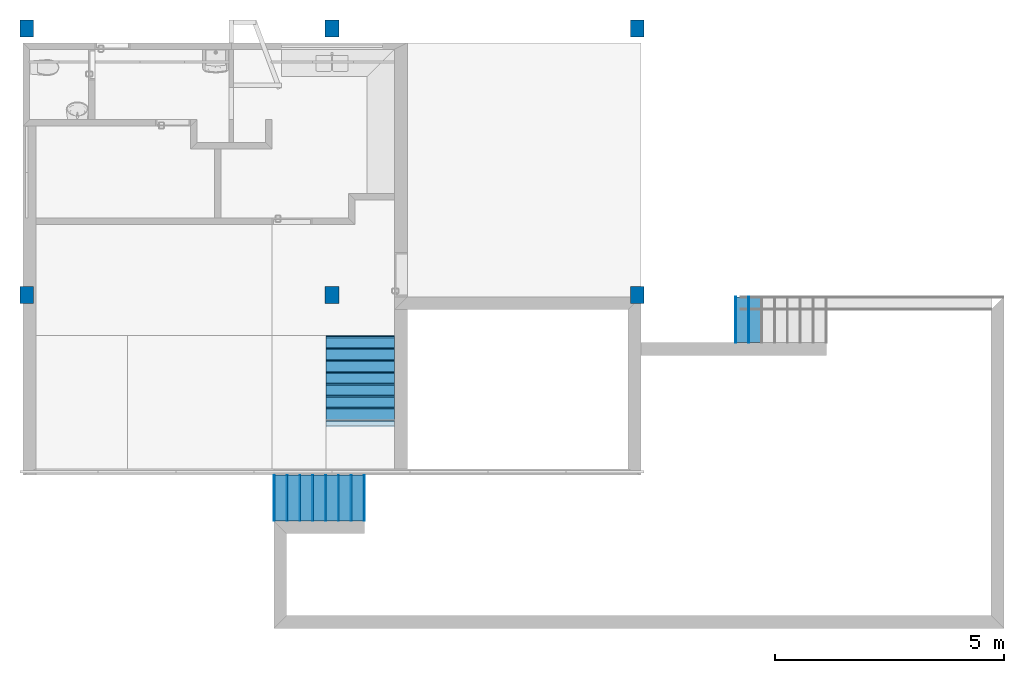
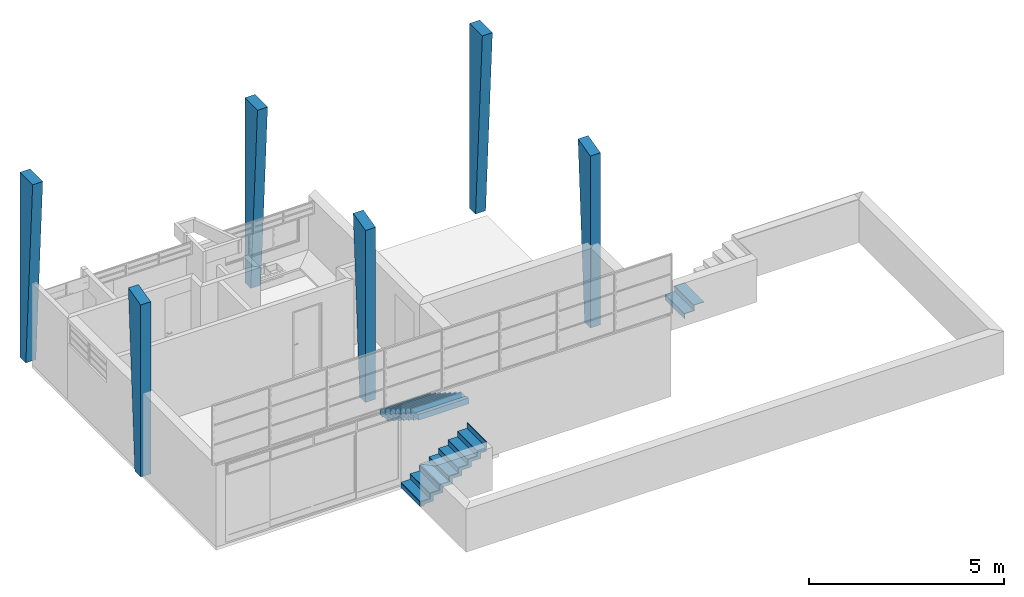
# One storey, part 8 of 16: 35 members, 6 columns, 3 elements without a shape of their own.
"""IFC2X3 building model written with IfcOpenShell, lengths in millimetres."""

from ifc_helpers import new_model, entity, si_unit, converted_unit, derived_unit, money_unit, direction, frame, origin_with_axes, place, context, subcontext, project, spatial, faceted_brep, material, type_object, element, aggregate, save


model = new_model("IFC2X3")

# Units and contexts
model_context = context("Model", 3, precision=0.01, world=origin_with_axes(), true_north=direction((0.293984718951, 0.955810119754)))
body_context = subcontext(model_context, "Body", "Model", "MODEL_VIEW")
ifc_project = project(units=[si_unit("LENGTHUNIT", "METRE", prefix="MILLI"), si_unit("AREAUNIT", "SQUARE_METRE"), si_unit("VOLUMEUNIT", "CUBIC_METRE"), converted_unit("PLANEANGLEUNIT", "DEGREE", entity("IfcPlaneAngleMeasure", 0.0174532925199), si_unit("PLANEANGLEUNIT", "RADIAN"), dimensions=[0, 0, 0, 0, 0, 0, 0]), si_unit("SOLIDANGLEUNIT", "STERADIAN"), money_unit("USD"), converted_unit("TIMEUNIT", "Year", entity("IfcTimeMeasure", 31556926.0), si_unit("TIMEUNIT", "SECOND"), dimensions=[0, 0, 1, 0, 0, 0, 0]), si_unit("MASSUNIT", "GRAM", prefix="KILO"), si_unit("THERMODYNAMICTEMPERATUREUNIT", "DEGREE_CELSIUS"), si_unit("LUMINOUSINTENSITYUNIT", "LUMEN"), si_unit("ENERGYUNIT", "JOULE", prefix="MEGA"), derived_unit("THERMALCONDUCTANCEUNIT", [(si_unit("POWERUNIT", "WATT"), 1), (si_unit("LENGTHUNIT", "METRE"), -1), (si_unit("THERMODYNAMICTEMPERATUREUNIT", "KELVIN"), -1)]), derived_unit("SPECIFICHEATCAPACITYUNIT", [(si_unit("ENERGYUNIT", "JOULE"), 1), (si_unit("MASSUNIT", "GRAM", prefix="KILO"), -1), (si_unit("THERMODYNAMICTEMPERATUREUNIT", "KELVIN"), -1)]), derived_unit("MASSDENSITYUNIT", [(si_unit("MASSUNIT", "GRAM", prefix="KILO"), 1), (si_unit("VOLUMEUNIT", "CUBIC_METRE"), -1)])], contexts=[model_context])

# Site, building, storey
site_placement = place(None, origin_with_axes())
site = spatial("IfcSite", under=ifc_project, at=site_placement, Name="Local", CompositionType="ELEMENT")
building_placement = place(site_placement, origin_with_axes())
building = spatial("IfcBuilding", under=site, at=building_placement, Name="Construção", CompositionType="ELEMENT")
storey_placement = place(building_placement, origin_with_axes())
storey = spatial("IfcBuildingStorey", under=building, at=storey_placement, Name="Pavimento Térreo", CompositionType="ELEMENT", Elevation=0.0)

# Columns
ifc_material_1 = material(Name="Concreto Armado - Estrutural")
column_type = type_object("IfcColumnType", Name="Concreto Armado - Estrutural 650 x 300", PredefinedType="NOTDEFINED")
for number, where, z_axis, x_axis, name in (
    (1, (20499.6450727, 13150.6321979, 0.0), (0.0, 0.0, 1.0), (1.0, 0.0, 0.0), "Pilar-01"),
    (2, (13829.6450727, 13150.6321979, 0.0), (0.0, 0.0, 1.0), (1.0, 0.0, 0.0), "Pilar-02"),
    (3, (7159.64507267, 13150.6321979, 0.0), (0.0, 0.0, 1.0), (1.0, 0.0, 0.0), "Pilar-03"),
):
    element("IfcColumn", number, at=place(storey_placement, frame(where, z_axis=z_axis, x_axis=x_axis)), inside=storey, type_object=column_type, material=ifc_material_1, Name=name, context=body_context, shape_type="Brep", body=[
        faceted_brep([(150.0, 150.0, 0.0), (150.0, 150.0, 5800.0), (150.0, -500.0, 5800.0), (150.0, -150.0, 0.0), (-150.0, 150.0, 0.0), (-150.0, 150.0, 5800.0), (-150.0, -500.0, 5800.0), (-150.0, -150.0, 0.0)], [[[0, 1, 2, 3]], [[4, 5, 1, 0]], [[6, 2, 1, 5]], [[3, 2, 6, 7]], [[7, 4, 0, 3]], [[7, 6, 5, 4]]]),
    ])
column_1_placement = place(storey_placement, frame((13829.6450727, 7250.63219788, 0.0), z_axis=(0.0, 0.0, 1.0), x_axis=(1.0, 0.0, 0.0)))
element("IfcColumn", 4, at=column_1_placement, inside=storey, type_object=column_type, material=ifc_material_1, Name="Pilar-05", context=body_context, shape_type="Brep", body=[
    faceted_brep([(-150.0, 150.0, 0.0), (-150.0, 485.067846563, 5552.5528859), (150.0, 485.067846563, 5552.5528859), (150.0, 150.0, 0.0), (-150.0, -150.0, 0.0), (-150.0, -150.0, 5394.21268805), (150.0, -150.0, 5394.21268805), (150.0, -150.0, 0.0)], [[[0, 1, 2, 3]], [[4, 5, 1, 0]], [[6, 2, 1, 5]], [[3, 2, 6, 7]], [[4, 0, 3, 7]], [[7, 6, 5, 4]]]),
])
column_2_placement = place(storey_placement, frame((20499.6450727, 7250.63219788, 0.0), z_axis=(0.0, 0.0, 1.0), x_axis=(1.0, 0.0, 0.0)))
element("IfcColumn", 5, at=column_2_placement, inside=storey, type_object=column_type, material=ifc_material_1, Name="Pilar-06", context=body_context, shape_type="Brep", body=[
    faceted_brep([(-150.0, 150.0, 0.0), (-150.0, 485.067846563, 5552.5528859), (149.999999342, 485.06784656, 5552.55288591), (150.0, 150.0, 0.0), (-150.0, -150.0, 0.0), (-150.0, -150.0, 5394.21268805), (149.999999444, -150.000000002, 5394.21268805), (150.0, -150.0, 0.0)], [[[0, 1, 2, 3]], [[4, 5, 1, 0]], [[6, 2, 1, 5]], [[3, 2, 6, 7]], [[4, 0, 3, 7]], [[7, 6, 5, 4]]]),
])
column_3_placement = place(storey_placement, frame((7159.64507267, 7250.63219788, 0.0), z_axis=(0.0, 0.0, 1.0), x_axis=(1.0, 0.0, 0.0)))
element("IfcColumn", 6, at=column_3_placement, inside=storey, type_object=column_type, material=ifc_material_1, Name="Pilar-04", context=body_context, shape_type="Brep", body=[
    faceted_brep([(-150.0, 150.0, 0.0), (-150.000001, 485.06784656, 5552.55288591), (150.0, 485.067846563, 5552.5528859), (150.0, 150.0, 0.0), (-150.0, -150.0, 0.0), (-150.000000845, -150.000000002, 5394.21268805), (150.0, -150.0, 5394.21268805), (150.0, -150.0, 0.0)], [[[0, 1, 2, 3]], [[4, 5, 1, 0]], [[6, 2, 1, 5]], [[3, 2, 6, 7]], [[4, 0, 3, 7]], [[7, 6, 5, 4]]]),
])

# Stair, members
stair_1_placement = place(storey_placement, frame((15199.6450727, 6400.63219788, 50.0), z_axis=(0.0, 0.0, 1.0), x_axis=(1.0, 0.0, 0.0)))
stair_1 = element("IfcStair", 7, at=stair_1_placement, inside=storey, Name="Escada", ShapeType="NOTDEFINED")
member_type = type_object("IfcMemberType", Name="IfcMember", PredefinedType="NOTDEFINED")
member_1_placement = place(stair_1_placement, origin_with_axes())
member_1 = element("IfcMember", 8, at=member_1_placement, type_object=member_type, material=ifc_material_1, Name="Lance - 025", context=body_context, shape_type="Brep", body=[
    faceted_brep([(-1500.0, -1580.47620557, 1117.5), (-1500.0, -1872.0630058, 1117.5), (0.0, -1872.0630058, 1117.5), (0.0, -1580.47620557, 1117.5), (-1500.0, -1859.91423797, 1180.0), (-1500.0, -1612.0630058, 955.0), (-1500.0, -1320.47620557, 955.0), (-1500.0, -1352.0630058, 792.5), (-1500.0, -1060.47620557, 792.5), (-1500.0, -1092.0630058, 630.0), (-1500.0, -800.476205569, 630.0), (-1500.0, -832.063005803, 467.5), (-1500.0, -540.476205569, 467.5), (-1500.0, -572.063005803, 305.0), (-1500.0, -280.476205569, 305.0), (-1500.0, -312.063005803, 142.5), (-1500.0, -20.4762055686, 142.5), (-1500.0, -48.1753996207, 0.0), (-1500.0, -150.047069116, 0.0), (-1500.0, -141.785905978, 42.5), (-1500.0, -433.372706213, 42.5), (-1500.0, -401.785905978, 205.0), (-1500.0, -693.372706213, 205.0), (-1500.0, -661.785905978, 367.5), (-1500.0, -953.372706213, 367.5), (-1500.0, -921.785905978, 530.0), (-1500.0, -1213.37270621, 530.0), (-1500.0, -1181.78590598, 692.5), (-1500.0, -1473.37270621, 692.5), (-1500.0, -1441.78590598, 855.0), (-1500.0, -1733.37270621, 855.0), (-1500.0, -1701.78590598, 1017.5), (-1500.0, -1993.37270338, 1017.5), (-1500.0, -1961.78590701, 1180.0), (0.0, -1859.91423797, 1180.0), (0.0, -1961.78590701, 1180.0), (0.0, -1993.37270338, 1017.5), (0.0, -1701.78590598, 1017.5), (0.0, -1733.37270621, 855.0), (0.0, -1441.78590598, 855.0), (0.0, -1473.37270621, 692.5), (0.0, -1181.78590598, 692.5), (0.0, -1213.37270621, 530.0), (0.0, -921.785905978, 530.0), (0.0, -953.372706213, 367.5), (0.0, -661.785905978, 367.5), (0.0, -693.372706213, 205.0), (0.0, -401.785905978, 205.0), (0.0, -433.372706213, 42.5), (0.0, -141.785905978, 42.5), (0.0, -150.047069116, 0.0), (0.0, -48.1753996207, 0.0), (0.0, -20.4762055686, 142.5), (0.0, -312.063005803, 142.5), (0.0, -280.476205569, 305.0), (0.0, -572.063005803, 305.0), (0.0, -540.476205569, 467.5), (0.0, -832.063005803, 467.5), (0.0, -800.476205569, 630.0), (0.0, -1092.0630058, 630.0), (0.0, -1060.47620557, 792.5), (0.0, -1352.0630058, 792.5), (0.0, -1320.47620557, 955.0), (0.0, -1612.0630058, 955.0)], [[[0, 1, 2, 3]], [[4, 1, 0, 5, 6, 7, 8, 9, 10, 11, 12, 13, 14, 15, 16, 17, 18, 19, 20, 21, 22, 23, 24, 25, 26, 27, 28, 29, 30, 31, 32, 33]], [[34, 2, 1, 4]], [[35, 36, 37, 38, 39, 40, 41, 42, 43, 44, 45, 46, 47, 48, 49, 50, 51, 52, 53, 54, 55, 56, 57, 58, 59, 60, 61, 62, 63, 3, 2, 34]], [[5, 0, 3, 63]], [[63, 62, 6, 5]], [[7, 6, 62, 61]], [[61, 60, 8, 7]], [[9, 8, 60, 59]], [[59, 58, 10, 9]], [[11, 10, 58, 57]], [[57, 56, 12, 11]], [[13, 12, 56, 55]], [[55, 54, 14, 13]], [[15, 14, 54, 53]], [[53, 52, 16, 15]], [[51, 17, 16, 52]], [[50, 18, 17, 51]], [[18, 50, 49, 19]], [[48, 20, 19, 49]], [[20, 48, 47, 21]], [[47, 46, 22, 21]], [[22, 46, 45, 23]], [[45, 44, 24, 23]], [[24, 44, 43, 25]], [[43, 42, 26, 25]], [[26, 42, 41, 27]], [[41, 40, 28, 27]], [[28, 40, 39, 29]], [[39, 38, 30, 29]], [[30, 38, 37, 31]], [[36, 32, 31, 37]], [[32, 36, 35, 33]], [[33, 35, 34, 4]]]),
])
ifc_material_2 = material(Name="Concreto - Contra Piso")
member_2_placement = place(stair_1_placement, frame((-750.0, 0.0, 142.5), z_axis=(0.0, 0.0, 1.0), x_axis=(-1.0, 0.0, 0.0)))
member_2 = element("IfcMember", 9, at=member_2_placement, type_object=member_type, material=ifc_material_2, Name="RISER-215", context=body_context, shape_type="Brep", body=[
    faceted_brep([(750.0, 0.0, 0.0), (750.0, 20.3743338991, 0.0), (-750.0, 20.3743338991, 0.0), (-750.0, 0.0, 0.0), (750.0, 27.6991940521, -142.5), (750.0, 48.0735279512, -142.5), (-750.0, 48.0735279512, -142.5), (-750.0, 27.6991940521, -142.5)], [[[0, 1, 2, 3]], [[0, 4, 5, 1]], [[1, 5, 6, 2]], [[3, 2, 6, 7]], [[4, 0, 3, 7]], [[5, 4, 7, 6]]]),
])
member_3_placement = place(stair_1_placement, frame((-750.0, -260.0, 305.0), z_axis=(0.0, 0.0, 1.0), x_axis=(-1.0, 0.0, 0.0)))
member_3 = element("IfcMember", 10, at=member_3_placement, type_object=member_type, material=ifc_material_2, Name="RISER-216", context=body_context, shape_type="Brep", body=[
    faceted_brep([(750.0, 0.0, 0.0), (750.0, 20.3743338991, 0.0), (-750.0, 20.3743338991, 0.0), (-750.0, 0.0, 0.0), (750.0, 27.6991940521, -142.5), (750.0, 48.0735279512, -142.5), (-750.0, 48.0735279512, -142.5), (-750.0, 27.6991940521, -142.5)], [[[0, 1, 2, 3]], [[0, 4, 5, 1]], [[1, 5, 6, 2]], [[3, 2, 6, 7]], [[4, 0, 3, 7]], [[5, 4, 7, 6]]]),
])
member_4_placement = place(stair_1_placement, frame((-750.0, -520.0, 467.5), z_axis=(0.0, 0.0, 1.0), x_axis=(-1.0, 0.0, 0.0)))
member_4 = element("IfcMember", 11, at=member_4_placement, type_object=member_type, material=ifc_material_2, Name="RISER-217", context=body_context, shape_type="Brep", body=[
    faceted_brep([(750.0, 0.0, 0.0), (750.0, 20.3743338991, 0.0), (-750.0, 20.3743338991, 0.0), (-750.0, 0.0, 0.0), (750.0, 27.6991940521, -142.5), (750.0, 48.0735279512, -142.5), (-750.0, 48.0735279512, -142.5), (-750.0, 27.6991940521, -142.5)], [[[0, 1, 2, 3]], [[0, 4, 5, 1]], [[1, 5, 6, 2]], [[3, 2, 6, 7]], [[4, 0, 3, 7]], [[5, 4, 7, 6]]]),
])
member_5_placement = place(stair_1_placement, frame((-750.0, -780.0, 630.0), z_axis=(0.0, 0.0, 1.0), x_axis=(-1.0, 0.0, 0.0)))
member_5 = element("IfcMember", 12, at=member_5_placement, type_object=member_type, material=ifc_material_2, Name="RISER-218", context=body_context, shape_type="Brep", body=[
    faceted_brep([(750.0, 0.0, 0.0), (750.0, 20.3743338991, 0.0), (-750.0, 20.3743338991, 0.0), (-750.0, 0.0, 0.0), (750.0, 27.6991940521, -142.5), (750.0, 48.0735279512, -142.5), (-750.0, 48.0735279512, -142.5), (-750.0, 27.6991940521, -142.5)], [[[0, 1, 2, 3]], [[0, 4, 5, 1]], [[1, 5, 6, 2]], [[3, 2, 6, 7]], [[4, 0, 3, 7]], [[5, 4, 7, 6]]]),
])
member_6_placement = place(stair_1_placement, frame((-750.0, -1040.0, 792.5), z_axis=(0.0, 0.0, 1.0), x_axis=(-1.0, 0.0, 0.0)))
member_6 = element("IfcMember", 13, at=member_6_placement, type_object=member_type, material=ifc_material_2, Name="RISER-219", context=body_context, shape_type="Brep", body=[
    faceted_brep([(750.0, 0.0, 0.0), (750.0, 20.3743338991, 0.0), (-750.0, 20.3743338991, 0.0), (-750.0, 0.0, 0.0), (750.0, 27.6991940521, -142.5), (750.0, 48.0735279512, -142.5), (-750.0, 48.0735279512, -142.5), (-750.0, 27.6991940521, -142.5)], [[[0, 1, 2, 3]], [[0, 4, 5, 1]], [[1, 5, 6, 2]], [[3, 2, 6, 7]], [[4, 0, 3, 7]], [[5, 4, 7, 6]]]),
])
member_7_placement = place(stair_1_placement, frame((-750.0, -1300.0, 955.0), z_axis=(0.0, 0.0, 1.0), x_axis=(-1.0, 0.0, 0.0)))
member_7 = element("IfcMember", 14, at=member_7_placement, type_object=member_type, material=ifc_material_2, Name="RISER-220", context=body_context, shape_type="Brep", body=[
    faceted_brep([(750.0, 0.0, 0.0), (750.0, 20.3743338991, 0.0), (-750.0, 20.3743338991, 0.0), (-750.0, 0.0, 0.0), (750.0, 27.6991940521, -142.5), (750.0, 48.0735279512, -142.5), (-750.0, 48.0735279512, -142.5), (-750.0, 27.6991940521, -142.5)], [[[0, 1, 2, 3]], [[0, 4, 5, 1]], [[1, 5, 6, 2]], [[3, 2, 6, 7]], [[4, 0, 3, 7]], [[5, 4, 7, 6]]]),
])
member_8_placement = place(stair_1_placement, frame((-750.0, -1560.0, 1117.5), z_axis=(0.0, 0.0, 1.0), x_axis=(-1.0, 0.0, 0.0)))
member_8 = element("IfcMember", 15, at=member_8_placement, type_object=member_type, material=ifc_material_2, Name="RISER-221", context=body_context, shape_type="Brep", body=[
    faceted_brep([(750.0, 0.0, 0.0), (750.0, 20.3743338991, 0.0), (-750.0, 20.3743338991, 0.0), (-750.0, 0.0, 0.0), (750.0, 27.6991940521, -142.5), (750.0, 48.0735279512, -142.5), (-750.0, 48.0735279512, -142.5), (-750.0, 27.6991940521, -142.5)], [[[0, 1, 2, 3]], [[0, 4, 5, 1]], [[1, 5, 6, 2]], [[3, 2, 6, 7]], [[4, 0, 3, 7]], [[5, 4, 7, 6]]]),
])
member_9_placement = place(stair_1_placement, frame((-750.0, 0.0, 162.5), z_axis=(0.0, 0.0, 1.0), x_axis=(-1.0, 0.0, 0.0)))
member_9 = element("IfcMember", 16, at=member_9_placement, type_object=member_type, material=ifc_material_2, Name="Piso Esc. - 184", context=body_context, shape_type="Brep", body=[
    faceted_brep([(-750.0, 311.961134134, -20.0), (0.0, 311.961134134, -20.0), (750.0, 311.961134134, -20.0), (750.0, 0.0, -20.0), (-750.0, 0.0, -20.0), (-750.0, 308.073527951, 0.0), (0.0, 308.073527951, 0.0), (750.0, 308.073527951, 0.0), (750.0, 0.0, 0.0), (-750.0, 0.0, 0.0)], [[[0, 1, 2, 3, 4]], [[1, 0, 5, 6, 7, 2]], [[7, 8, 3, 2]], [[8, 9, 4, 3]], [[5, 0, 4, 9]], [[6, 5, 9, 8, 7]]]),
])
member_10_placement = place(stair_1_placement, frame((-750.0, -260.0, 325.0), z_axis=(0.0, 0.0, 1.0), x_axis=(-1.0, 0.0, 0.0)))
member_10 = element("IfcMember", 17, at=member_10_placement, type_object=member_type, material=ifc_material_2, Name="Piso Esc. - 185", context=body_context, shape_type="Brep", body=[
    faceted_brep([(-750.0, 311.961134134, -20.0), (0.0, 311.961134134, -20.0), (750.0, 311.961134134, -20.0), (750.0, 0.0, -20.0), (-750.0, 0.0, -20.0), (-750.0, 308.073527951, 0.0), (0.0, 308.073527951, 0.0), (750.0, 308.073527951, 0.0), (750.0, 0.0, 0.0), (-750.0, 0.0, 0.0)], [[[0, 1, 2, 3, 4]], [[1, 0, 5, 6, 7, 2]], [[7, 8, 3, 2]], [[8, 9, 4, 3]], [[5, 0, 4, 9]], [[6, 5, 9, 8, 7]]]),
])
member_11_placement = place(stair_1_placement, frame((-750.0, -520.0, 487.5), z_axis=(0.0, 0.0, 1.0), x_axis=(-1.0, 0.0, 0.0)))
member_11 = element("IfcMember", 18, at=member_11_placement, type_object=member_type, material=ifc_material_2, Name="Piso Esc. - 186", context=body_context, shape_type="Brep", body=[
    faceted_brep([(-750.0, 311.961134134, -20.0), (0.0, 311.961134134, -20.0), (750.0, 311.961134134, -20.0), (750.0, 0.0, -20.0), (-750.0, 0.0, -20.0), (-750.0, 308.073527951, 0.0), (0.0, 308.073527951, 0.0), (750.0, 308.073527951, 0.0), (750.0, 0.0, 0.0), (-750.0, 0.0, 0.0)], [[[0, 1, 2, 3, 4]], [[1, 0, 5, 6, 7, 2]], [[7, 8, 3, 2]], [[8, 9, 4, 3]], [[5, 0, 4, 9]], [[6, 5, 9, 8, 7]]]),
])
member_12_placement = place(stair_1_placement, frame((-750.0, -780.0, 650.0), z_axis=(0.0, 0.0, 1.0), x_axis=(-1.0, 0.0, 0.0)))
member_12 = element("IfcMember", 19, at=member_12_placement, type_object=member_type, material=ifc_material_2, Name="Piso Esc. - 187", context=body_context, shape_type="Brep", body=[
    faceted_brep([(-750.0, 311.961134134, -20.0), (0.0, 311.961134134, -20.0), (750.0, 311.961134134, -20.0), (750.0, 0.0, -20.0), (-750.0, 0.0, -20.0), (-750.0, 308.073527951, 0.0), (0.0, 308.073527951, 0.0), (750.0, 308.073527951, 0.0), (750.0, 0.0, 0.0), (-750.0, 0.0, 0.0)], [[[0, 1, 2, 3, 4]], [[1, 0, 5, 6, 7, 2]], [[7, 8, 3, 2]], [[8, 9, 4, 3]], [[5, 0, 4, 9]], [[6, 5, 9, 8, 7]]]),
])
member_13_placement = place(stair_1_placement, frame((-750.0, -1040.0, 812.5), z_axis=(0.0, 0.0, 1.0), x_axis=(-1.0, 0.0, 0.0)))
member_13 = element("IfcMember", 20, at=member_13_placement, type_object=member_type, material=ifc_material_2, Name="Piso Esc. - 188", context=body_context, shape_type="Brep", body=[
    faceted_brep([(-750.0, 311.961134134, -20.0), (0.0, 311.961134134, -20.0), (750.0, 311.961134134, -20.0), (750.0, 0.0, -20.0), (-750.0, 0.0, -20.0), (-750.0, 308.073527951, 0.0), (0.0, 308.073527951, 0.0), (750.0, 308.073527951, 0.0), (750.0, 0.0, 0.0), (-750.0, 0.0, 0.0)], [[[0, 1, 2, 3, 4]], [[1, 0, 5, 6, 7, 2]], [[7, 8, 3, 2]], [[8, 9, 4, 3]], [[5, 0, 4, 9]], [[6, 5, 9, 8, 7]]]),
])
member_14_placement = place(stair_1_placement, frame((-750.0, -1300.0, 975.0), z_axis=(0.0, 0.0, 1.0), x_axis=(-1.0, 0.0, 0.0)))
member_14 = element("IfcMember", 21, at=member_14_placement, type_object=member_type, material=ifc_material_2, Name="Piso Esc. - 189", context=body_context, shape_type="Brep", body=[
    faceted_brep([(-750.0, 311.961134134, -20.0), (0.0, 311.961134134, -20.0), (750.0, 311.961134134, -20.0), (750.0, 0.0, -20.0), (-750.0, 0.0, -20.0), (-750.0, 308.073527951, 0.0), (0.0, 308.073527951, 0.0), (750.0, 308.073527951, 0.0), (750.0, 0.0, 0.0), (-750.0, 0.0, 0.0)], [[[0, 1, 2, 3, 4]], [[1, 0, 5, 6, 7, 2]], [[7, 8, 3, 2]], [[8, 9, 4, 3]], [[5, 0, 4, 9]], [[6, 5, 9, 8, 7]]]),
])
member_15_placement = place(stair_1_placement, frame((-750.0, -1560.0, 1137.5), z_axis=(0.0, 0.0, 1.0), x_axis=(-1.0, 0.0, 0.0)))
member_15 = element("IfcMember", 22, at=member_15_placement, type_object=member_type, material=ifc_material_2, Name="Piso Esc. - 190", context=body_context, shape_type="Brep", body=[
    faceted_brep([(-750.0, 311.961134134, -20.0), (0.0, 311.961134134, -20.0), (750.0, 311.961134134, -20.0), (750.0, 260.0, -20.0), (750.0, 0.0, -20.0), (-750.0, 0.0, -20.0), (-750.0, 260.0, -20.0), (-750.0, 308.073527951, 0.0), (0.0, 308.073527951, 0.0), (750.0, 308.073527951, 0.0), (750.0, 260.0, 0.0), (750.0, 0.0, 0.0), (-750.0, 0.0, 0.0), (-750.0, 260.0, 0.0)], [[[0, 1, 2, 3, 4, 5, 6]], [[1, 0, 7, 8, 9, 2]], [[9, 10, 3, 2]], [[10, 11, 4, 3]], [[11, 12, 5, 4]], [[12, 13, 6, 5]], [[7, 0, 6, 13]], [[8, 7, 13, 12, 11, 10, 9]]]),
])
aggregate(stair_1, [member_1, member_2, member_3, member_4, member_5, member_6, member_7, member_8, member_9, member_10, member_11, member_12, member_13, member_14, member_15])

stair_2_placement = place(storey_placement, frame((12559.6450727, 3350.63219788, 0.0), z_axis=(0.0, 0.0, 1.0), x_axis=(1.0, 0.0, 0.0)))
stair_2 = element("IfcStair", 23, at=stair_2_placement, inside=storey, Name="Escada", ShapeType="NOTDEFINED")
member_16_placement = place(stair_2_placement, origin_with_axes())
member_16 = element("IfcMember", 24, at=member_16_placement, type_object=member_type, material=ifc_material_1, Name="Lance - 022", context=body_context, shape_type="Brep", body=[
    faceted_brep([(1962.91114828, -1000.0, 1161.25), (1962.91114828, 0.0, 1161.25), (1702.5952709, 0.0, 1161.25), (1702.5952709, -1000.0, 1161.25), (1962.91114828, 0.0, 1061.25), (1962.91114828, -1000.0, 1061.25), (1802.5952709, 0.0, 1061.25), (1802.5952709, 0.0, 892.5), (1522.17939242, 0.0, 892.5), (1522.17939242, 0.0, 723.75), (1241.76351393, 0.0, 723.75), (1241.76351393, 0.0, 555.0), (961.34763545, 0.0, 555.0), (961.34763545, 0.0, 386.25), (680.931756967, 0.0, 386.25), (680.931756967, 0.0, 217.5), (400.515878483, 0.0, 217.5), (400.515878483, 0.0, 48.75), (120.1, 0.0, 48.75), (120.1, 0.0, 0.0), (20.1, 0.0, 0.0), (20.1, 0.0, 148.75), (300.515878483, 0.0, 148.75), (300.515878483, 0.0, 317.5), (580.931756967, 0.0, 317.5), (580.931756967, 0.0, 486.25), (861.34763545, 0.0, 486.25), (861.34763545, 0.0, 655.0), (1141.76351393, 0.0, 655.0), (1141.76351393, 0.0, 823.75), (1422.17939242, 0.0, 823.75), (1422.17939242, 0.0, 992.5), (1702.5952709, 0.0, 992.5), (1702.5952709, -1000.0, 992.5), (1422.17939242, -1000.0, 992.5), (1422.17939242, -1000.0, 823.75), (1141.76351393, -1000.0, 823.75), (1141.76351393, -1000.0, 655.0), (861.34763545, -1000.0, 655.0), (861.34763545, -1000.0, 486.25), (580.931756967, -1000.0, 486.25), (580.931756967, -1000.0, 317.5), (300.515878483, -1000.0, 317.5), (300.515878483, -1000.0, 148.75), (20.1, -1000.0, 148.75), (20.1, -1000.0, 0.0), (120.1, -1000.0, 0.0), (120.1, -1000.0, 48.75), (400.515878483, -1000.0, 48.75), (400.515878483, -1000.0, 217.5), (680.931756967, -1000.0, 217.5), (680.931756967, -1000.0, 386.25), (961.34763545, -1000.0, 386.25), (961.34763545, -1000.0, 555.0), (1241.76351393, -1000.0, 555.0), (1241.76351393, -1000.0, 723.75), (1522.17939242, -1000.0, 723.75), (1522.17939242, -1000.0, 892.5), (1802.5952709, -1000.0, 892.5), (1802.5952709, -1000.0, 1061.25)], [[[0, 1, 2, 3]], [[4, 1, 0, 5]], [[1, 4, 6, 7, 8, 9, 10, 11, 12, 13, 14, 15, 16, 17, 18, 19, 20, 21, 22, 23, 24, 25, 26, 27, 28, 29, 30, 31, 32, 2]], [[3, 2, 32, 33]], [[5, 0, 3, 33, 34, 35, 36, 37, 38, 39, 40, 41, 42, 43, 44, 45, 46, 47, 48, 49, 50, 51, 52, 53, 54, 55, 56, 57, 58, 59]], [[4, 5, 59, 6]], [[6, 59, 58, 7]], [[7, 58, 57, 8]], [[8, 57, 56, 9]], [[9, 56, 55, 10]], [[10, 55, 54, 11]], [[11, 54, 53, 12]], [[12, 53, 52, 13]], [[13, 52, 51, 14]], [[14, 51, 50, 15]], [[15, 50, 49, 16]], [[49, 48, 17, 16]], [[48, 47, 18, 17]], [[19, 18, 47, 46]], [[46, 45, 20, 19]], [[20, 45, 44, 21]], [[21, 44, 43, 22]], [[42, 23, 22, 43]], [[23, 42, 41, 24]], [[40, 25, 24, 41]], [[25, 40, 39, 26]], [[38, 27, 26, 39]], [[27, 38, 37, 28]], [[36, 29, 28, 37]], [[29, 36, 35, 30]], [[34, 31, 30, 35]], [[31, 34, 33, 32]]]),
])
member_17_placement = place(stair_2_placement, frame((0.0, -500.0, 148.75), z_axis=(0.0, 0.0, 1.0), x_axis=(0.0, -1.0, 0.0)))
member_17 = element("IfcMember", 25, at=member_17_placement, type_object=member_type, material=ifc_material_2, Name="RISER-187", context=body_context, shape_type="Brep", body=[
    faceted_brep([(500.0, 0.0, 0.0), (500.0, 20.0, 0.0), (-500.0, 20.0, 0.0), (-500.0, 0.0, 0.0), (500.0, 0.0, -148.75), (500.0, 20.0, -148.75), (-500.0, 20.0, -148.75), (-500.0, 0.0, -148.75)], [[[0, 1, 2, 3]], [[0, 4, 5, 1]], [[1, 5, 6, 2]], [[3, 2, 6, 7]], [[4, 0, 3, 7]], [[5, 4, 7, 6]]]),
])
member_18_placement = place(stair_2_placement, frame((280.415878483, -500.0, 317.5), z_axis=(0.0, 0.0, 1.0), x_axis=(0.0, -1.0, 0.0)))
member_18 = element("IfcMember", 26, at=member_18_placement, type_object=member_type, material=ifc_material_2, Name="RISER-188", context=body_context, shape_type="Brep", body=[
    faceted_brep([(500.0, 0.0, 0.0), (500.0, 20.0, 0.0), (-500.0, 20.0, 0.0), (-500.0, 0.0, 0.0), (500.0, 0.0, -148.75), (500.0, 20.0, -148.75), (-500.0, 20.0, -148.75), (-500.0, 0.0, -148.75)], [[[0, 1, 2, 3]], [[0, 4, 5, 1]], [[1, 5, 6, 2]], [[3, 2, 6, 7]], [[4, 0, 3, 7]], [[5, 4, 7, 6]]]),
])
member_19_placement = place(stair_2_placement, frame((560.831756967, -500.0, 486.25), z_axis=(0.0, 0.0, 1.0), x_axis=(0.0, -1.0, 0.0)))
member_19 = element("IfcMember", 27, at=member_19_placement, type_object=member_type, material=ifc_material_2, Name="RISER-189", context=body_context, shape_type="Brep", body=[
    faceted_brep([(500.0, 0.0, 0.0), (500.0, 20.0, 0.0), (-500.0, 20.0, 0.0), (-500.0, 0.0, 0.0), (500.0, 0.0, -148.75), (500.0, 20.0, -148.75), (-500.0, 20.0, -148.75), (-500.0, 0.0, -148.75)], [[[0, 1, 2, 3]], [[0, 4, 5, 1]], [[1, 5, 6, 2]], [[3, 2, 6, 7]], [[4, 0, 3, 7]], [[5, 4, 7, 6]]]),
])
member_20_placement = place(stair_2_placement, frame((841.24763545, -500.0, 655.0), z_axis=(0.0, 0.0, 1.0), x_axis=(0.0, -1.0, 0.0)))
member_20 = element("IfcMember", 28, at=member_20_placement, type_object=member_type, material=ifc_material_2, Name="RISER-190", context=body_context, shape_type="Brep", body=[
    faceted_brep([(500.0, 0.0, 0.0), (500.0, 20.0, 0.0), (-500.0, 20.0, 0.0), (-500.0, 0.0, 0.0), (500.0, 0.0, -148.75), (500.0, 20.0, -148.75), (-500.0, 20.0, -148.75), (-500.0, 0.0, -148.75)], [[[0, 1, 2, 3]], [[0, 4, 5, 1]], [[1, 5, 6, 2]], [[3, 2, 6, 7]], [[4, 0, 3, 7]], [[5, 4, 7, 6]]]),
])
member_21_placement = place(stair_2_placement, frame((1121.66351393, -500.0, 823.75), z_axis=(0.0, 0.0, 1.0), x_axis=(0.0, -1.0, 0.0)))
member_21 = element("IfcMember", 29, at=member_21_placement, type_object=member_type, material=ifc_material_2, Name="RISER-191", context=body_context, shape_type="Brep", body=[
    faceted_brep([(500.0, 0.0, 0.0), (500.0, 20.0, 0.0), (-500.0, 20.0, 0.0), (-500.0, 0.0, 0.0), (500.0, 0.0, -148.75), (500.0, 20.0, -148.75), (-500.0, 20.0, -148.75), (-500.0, 0.0, -148.75)], [[[0, 1, 2, 3]], [[0, 4, 5, 1]], [[1, 5, 6, 2]], [[3, 2, 6, 7]], [[4, 0, 3, 7]], [[5, 4, 7, 6]]]),
])
member_22_placement = place(stair_2_placement, frame((1402.07939242, -500.0, 992.5), z_axis=(0.0, 0.0, 1.0), x_axis=(0.0, -1.0, 0.0)))
member_22 = element("IfcMember", 30, at=member_22_placement, type_object=member_type, material=ifc_material_2, Name="RISER-192", context=body_context, shape_type="Brep", body=[
    faceted_brep([(500.0, 0.0, 0.0), (500.0, 20.0, 0.0), (-500.0, 20.0, 0.0), (-500.0, 0.0, 0.0), (500.0, 0.0, -148.75), (500.0, 20.0, -148.75), (-500.0, 20.0, -148.75), (-500.0, 0.0, -148.75)], [[[0, 1, 2, 3]], [[0, 4, 5, 1]], [[1, 5, 6, 2]], [[3, 2, 6, 7]], [[4, 0, 3, 7]], [[5, 4, 7, 6]]]),
])
member_23_placement = place(stair_2_placement, frame((1682.4952709, -500.0, 1161.25), z_axis=(0.0, 0.0, 1.0), x_axis=(0.0, -1.0, 0.0)))
member_23 = element("IfcMember", 31, at=member_23_placement, type_object=member_type, material=ifc_material_2, Name="RISER-193", context=body_context, shape_type="Brep", body=[
    faceted_brep([(500.0, 0.0, 0.0), (500.0, 20.0, 0.0), (-500.0, 20.0, 0.0), (-500.0, 0.0, 0.0), (500.0, 0.0, -148.75), (500.0, 20.0, -148.75), (-500.0, 20.0, -148.75), (-500.0, 0.0, -148.75)], [[[0, 1, 2, 3]], [[0, 4, 5, 1]], [[1, 5, 6, 2]], [[3, 2, 6, 7]], [[4, 0, 3, 7]], [[5, 4, 7, 6]]]),
])
member_24_placement = place(stair_2_placement, frame((1962.91114938, -500.0, 1350.0), z_axis=(0.0, 0.0, 1.0), x_axis=(0.0, -1.0, 0.0)))
member_24 = element("IfcMember", 32, at=member_24_placement, type_object=member_type, material=ifc_material_2, Name="RISER-194", context=body_context, shape_type="Brep", body=[
    faceted_brep([(500.0, 0.0, 0.0), (500.0, 20.0, 0.0), (-500.0, 20.0, 0.0), (-500.0, 0.0, 0.0), (500.0, 0.0, -168.75), (500.0, 20.0, -168.75), (-500.0, 20.0, -168.75), (-500.0, 0.0, -168.75)], [[[0, 1, 2, 3]], [[0, 4, 5, 1]], [[1, 5, 6, 2]], [[3, 2, 6, 7]], [[4, 0, 3, 7]], [[5, 4, 7, 6]]]),
])
member_25_placement = place(stair_2_placement, frame((0.0, -500.0, 168.75), z_axis=(0.0, 0.0, 1.0), x_axis=(0.0, -1.0, 0.0)))
member_25 = element("IfcMember", 33, at=member_25_placement, type_object=member_type, material=ifc_material_2, Name="Piso Esc. - 156", context=body_context, shape_type="Brep", body=[
    faceted_brep([(-500.0, 0.0, -20.0), (500.0, 0.0, -20.0), (500.0, 0.0, 0.0), (-500.0, 0.0, 0.0), (-500.0, 300.415876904, -20.0), (500.0, 300.415876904, -20.0), (500.0, 300.415876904, 0.0), (-500.0, 300.415876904, 0.0)], [[[0, 1, 2, 3]], [[0, 4, 5, 1]], [[1, 5, 6, 2]], [[3, 2, 6, 7]], [[4, 0, 3, 7]], [[5, 4, 7, 6]]]),
])
member_26_placement = place(stair_2_placement, frame((280.415878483, -500.0, 337.5), z_axis=(0.0, 0.0, 1.0), x_axis=(0.0, -1.0, 0.0)))
member_26 = element("IfcMember", 34, at=member_26_placement, type_object=member_type, material=ifc_material_2, Name="Piso Esc. - 157", context=body_context, shape_type="Brep", body=[
    faceted_brep([(-500.0, 0.0, -20.0), (500.0, 0.0, -20.0), (500.0, 0.0, 0.0), (-500.0, 0.0, 0.0), (-500.0, 300.415876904, -20.0), (500.0, 300.415876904, -20.0), (500.0, 300.415876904, 0.0), (-500.0, 300.415876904, 0.0)], [[[0, 1, 2, 3]], [[0, 4, 5, 1]], [[1, 5, 6, 2]], [[3, 2, 6, 7]], [[4, 0, 3, 7]], [[5, 4, 7, 6]]]),
])
member_27_placement = place(stair_2_placement, frame((560.831756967, -500.0, 506.25), z_axis=(0.0, 0.0, 1.0), x_axis=(0.0, -1.0, 0.0)))
member_27 = element("IfcMember", 35, at=member_27_placement, type_object=member_type, material=ifc_material_2, Name="Piso Esc. - 158", context=body_context, shape_type="Brep", body=[
    faceted_brep([(-500.0, 0.0, -20.0), (500.0, 0.0, -20.0), (500.0, 0.0, 0.0), (-500.0, 0.0, 0.0), (-500.0, 300.415876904, -20.0), (500.0, 300.415876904, -20.0), (500.0, 300.415876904, 0.0), (-500.0, 300.415876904, 0.0)], [[[0, 1, 2, 3]], [[0, 4, 5, 1]], [[1, 5, 6, 2]], [[3, 2, 6, 7]], [[4, 0, 3, 7]], [[5, 4, 7, 6]]]),
])
member_28_placement = place(stair_2_placement, frame((841.24763545, -500.0, 675.0), z_axis=(0.0, 0.0, 1.0), x_axis=(0.0, -1.0, 0.0)))
member_28 = element("IfcMember", 36, at=member_28_placement, type_object=member_type, material=ifc_material_2, Name="Piso Esc. - 159", context=body_context, shape_type="Brep", body=[
    faceted_brep([(-500.0, 0.0, -20.0), (500.0, 0.0, -20.0), (500.0, 0.0, 0.0), (-500.0, 0.0, 0.0), (-500.0, 300.415876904, -20.0), (500.0, 300.415876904, -20.0), (500.0, 300.415876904, 0.0), (-500.0, 300.415876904, 0.0)], [[[0, 1, 2, 3]], [[0, 4, 5, 1]], [[1, 5, 6, 2]], [[3, 2, 6, 7]], [[4, 0, 3, 7]], [[5, 4, 7, 6]]]),
])
member_29_placement = place(stair_2_placement, frame((1121.66351393, -500.0, 843.75), z_axis=(0.0, 0.0, 1.0), x_axis=(0.0, -1.0, 0.0)))
member_29 = element("IfcMember", 37, at=member_29_placement, type_object=member_type, material=ifc_material_2, Name="Piso Esc. - 160", context=body_context, shape_type="Brep", body=[
    faceted_brep([(-500.0, 0.0, -20.0), (500.0, 0.0, -20.0), (500.0, 0.0, 0.0), (-500.0, 0.0, 0.0), (-500.0, 300.415876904, -20.0), (500.0, 300.415876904, -20.0), (500.0, 300.415876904, 0.0), (-500.0, 300.415876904, 0.0)], [[[0, 1, 2, 3]], [[0, 4, 5, 1]], [[1, 5, 6, 2]], [[3, 2, 6, 7]], [[4, 0, 3, 7]], [[5, 4, 7, 6]]]),
])
member_30_placement = place(stair_2_placement, frame((1402.07939242, -500.0, 1012.5), z_axis=(0.0, 0.0, 1.0), x_axis=(0.0, -1.0, 0.0)))
member_30 = element("IfcMember", 38, at=member_30_placement, type_object=member_type, material=ifc_material_2, Name="Piso Esc. - 161", context=body_context, shape_type="Brep", body=[
    faceted_brep([(-500.0, 0.0, -20.0), (500.0, 0.0, -20.0), (500.0, 0.0, 0.0), (-500.0, 0.0, 0.0), (-500.0, 300.415876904, -20.0), (500.0, 300.415876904, -20.0), (500.0, 300.415876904, 0.0), (-500.0, 300.415876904, 0.0)], [[[0, 1, 2, 3]], [[0, 4, 5, 1]], [[1, 5, 6, 2]], [[3, 2, 6, 7]], [[4, 0, 3, 7]], [[5, 4, 7, 6]]]),
])
member_31_placement = place(stair_2_placement, frame((1682.4952709, -500.0, 1181.25), z_axis=(0.0, 0.0, 1.0), x_axis=(0.0, -1.0, 0.0)))
member_31 = element("IfcMember", 39, at=member_31_placement, type_object=member_type, material=ifc_material_2, Name="Piso Esc. - 162", context=body_context, shape_type="Brep", body=[
    faceted_brep([(-500.0, 0.0, -20.0), (500.0, 0.0, -20.0), (500.0, 0.0, 0.0), (-500.0, 0.0, 0.0), (-500.0, 280.415878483, -20.0), (-500.0, 300.415878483, -20.0), (500.0, 300.415878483, -20.0), (500.0, 280.415878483, -20.0), (500.0, 280.415878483, 0.0), (500.0, 300.415878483, 0.0), (-500.0, 300.415878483, 0.0), (-500.0, 280.415878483, 0.0)], [[[0, 1, 2, 3]], [[0, 4, 5, 6, 7, 1]], [[1, 7, 8, 2]], [[3, 2, 8, 9, 10, 11]], [[4, 0, 3, 11]], [[5, 4, 11, 10]], [[6, 5, 10, 9]], [[7, 6, 9, 8]]]),
])
aggregate(stair_2, [member_16, member_17, member_18, member_19, member_20, member_21, member_22, member_23, member_24, member_25, member_26, member_27, member_28, member_29, member_30, member_31])

stair_3_placement = place(storey_placement, frame((22649.6450727, 7250.63219788, 0.0), z_axis=(0.0, 0.0, 1.0), x_axis=(1.0, 0.0, 0.0)))
stair_3 = element("IfcStair", 40, at=stair_3_placement, inside=storey, Name="Escada", ShapeType="NOTDEFINED")
member_32_placement = place(stair_3_placement, frame((0.0, -500.0, 148.75), z_axis=(0.0, 0.0, 1.0), x_axis=(0.0, -1.0, 0.0)))
member_32 = element("IfcMember", 41, at=member_32_placement, type_object=member_type, material=ifc_material_2, Name="RISER-195", context=body_context, shape_type="Brep", body=[
    faceted_brep([(500.0, 0.0, 0.0), (500.0, 20.0, 0.0), (-500.0, 20.0, 0.0), (-500.0, 0.0, 0.0), (500.0, 0.0, -148.75), (500.0, 20.0, -148.75), (-500.0, 20.0, -148.75), (-500.0, 0.0, -148.75)], [[[0, 1, 2, 3]], [[0, 4, 5, 1]], [[1, 5, 6, 2]], [[3, 2, 6, 7]], [[4, 0, 3, 7]], [[5, 4, 7, 6]]]),
])
member_33_placement = place(stair_3_placement, frame((282.020069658, -500.0, 317.5), z_axis=(0.0, 0.0, 1.0), x_axis=(0.0, -1.0, 0.0)))
member_33 = element("IfcMember", 42, at=member_33_placement, type_object=member_type, material=ifc_material_2, Name="RISER-196", context=body_context, shape_type="Brep", body=[
    faceted_brep([(500.0, 0.0, 0.0), (500.0, 20.0, 0.0), (-500.0, 20.0, 0.0), (-500.0, 0.0, 0.0), (500.0, 0.0, -148.75), (500.0, 20.0, -148.75), (-500.0, 20.0, -148.75), (-500.0, 0.0, -148.75)], [[[0, 1, 2, 3]], [[0, 4, 5, 1]], [[1, 5, 6, 2]], [[3, 2, 6, 7]], [[4, 0, 3, 7]], [[5, 4, 7, 6]]]),
])
member_34_placement = place(stair_3_placement, frame((0.0, -500.0, 168.75), z_axis=(0.0, 0.0, 1.0), x_axis=(0.0, -1.0, 0.0)))
member_34 = element("IfcMember", 43, at=member_34_placement, type_object=member_type, material=ifc_material_2, Name="Piso Esc. - 163", context=body_context, shape_type="Brep", body=[
    faceted_brep([(-500.0, 0.0, -20.0), (500.0, 0.0, -20.0), (500.0, 0.0, 0.0), (-500.0, 0.0, 0.0), (-500.0, 302.020062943, -20.0), (500.0, 302.020062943, -20.0), (500.0, 302.020062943, 0.0), (-500.0, 302.020062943, 0.0)], [[[0, 1, 2, 3]], [[0, 4, 5, 1]], [[1, 5, 6, 2]], [[3, 2, 6, 7]], [[4, 0, 3, 7]], [[5, 4, 7, 6]]]),
])
member_35_placement = place(stair_3_placement, frame((282.020069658, -500.0, 337.5), z_axis=(0.0, 0.0, 1.0), x_axis=(0.0, -1.0, 0.0)))
member_35 = element("IfcMember", 44, at=member_35_placement, type_object=member_type, material=ifc_material_2, Name="Piso Esc. - 164", context=body_context, shape_type="Brep", body=[
    faceted_brep([(-500.0, 0.0, -20.0), (500.0, 0.0, -20.0), (500.0, 0.0, 0.0), (-500.0, 0.0, 0.0), (-500.0, 302.020062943, -20.0), (500.0, 302.020062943, -20.0), (500.0, 302.020062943, 0.0), (-500.0, 302.020062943, 0.0)], [[[0, 1, 2, 3]], [[0, 4, 5, 1]], [[1, 5, 6, 2]], [[3, 2, 6, 7]], [[4, 0, 3, 7]], [[5, 4, 7, 6]]]),
])
aggregate(stair_3, [member_32, member_33, member_34, member_35])

save(model, "model.ifc")
